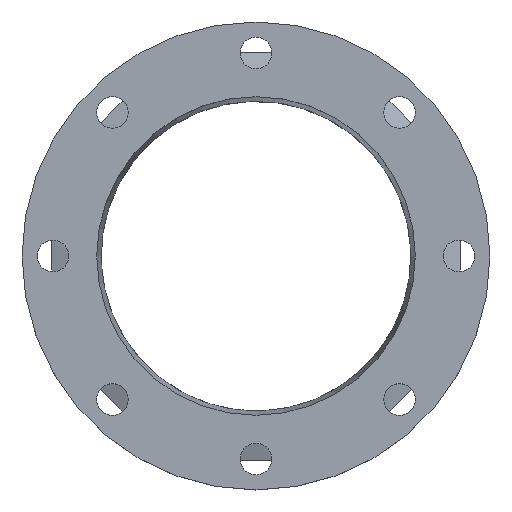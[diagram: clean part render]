
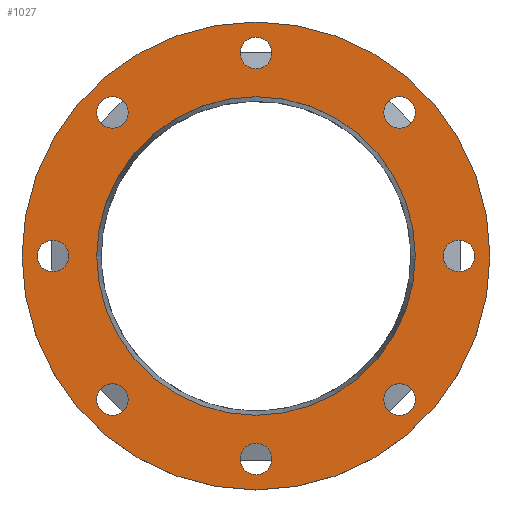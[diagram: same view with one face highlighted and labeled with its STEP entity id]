
A CAD part, top view. The second image highlights one B-rep face of the part: STEP entity #1027.
In plain terms, the highlighted planar face has unit normal (0, 0, 1).
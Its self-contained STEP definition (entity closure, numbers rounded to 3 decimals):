
#7=CARTESIAN_POINT('',(0.,0.,0.));
#8=DIRECTION('',(0.,0.,1.));
#9=DIRECTION('',(0.,1.,0.));
#10=AXIS2_PLACEMENT_3D('',#7,#8,#9);
#29=CARTESIAN_POINT('',(0.,0.,0.));
#30=DIRECTION('',(0.,0.,-1.));
#31=DIRECTION('',(0.,1.,0.));
#32=AXIS2_PLACEMENT_3D('',#29,#30,#31);
#38=CARTESIAN_POINT('',(0.,0.,0.));
#39=DIRECTION('',(0.,0.,1.));
#40=DIRECTION('',(0.,1.,0.));
#41=AXIS2_PLACEMENT_3D('',#38,#39,#40);
#43=CARTESIAN_POINT('',(0.,0.,0.));
#44=DIRECTION('',(0.,0.,-1.));
#45=DIRECTION('',(0.,1.,0.));
#46=AXIS2_PLACEMENT_3D('',#43,#44,#45);
#48=CARTESIAN_POINT('',(0.,147.5,0.));
#49=DIRECTION('',(0.,0.,-1.));
#50=DIRECTION('',(-1.,0.,0.));
#51=AXIS2_PLACEMENT_3D('',#48,#49,#50);
#53=CARTESIAN_POINT('',(0.,147.5,0.));
#54=DIRECTION('',(0.,0.,-1.));
#55=DIRECTION('',(1.,0.,0.));
#56=AXIS2_PLACEMENT_3D('',#53,#54,#55);
#58=CARTESIAN_POINT('',(-104.298,104.298,0.));
#59=DIRECTION('',(0.,0.,-1.));
#60=DIRECTION('',(-0.707,-0.707,0.));
#61=AXIS2_PLACEMENT_3D('',#58,#59,#60);
#63=CARTESIAN_POINT('',(-104.298,104.298,0.));
#64=DIRECTION('',(0.,0.,-1.));
#65=DIRECTION('',(0.707,0.707,0.));
#66=AXIS2_PLACEMENT_3D('',#63,#64,#65);
#68=CARTESIAN_POINT('',(-147.5,0.,0.));
#69=DIRECTION('',(0.,0.,-1.));
#70=DIRECTION('',(0.,-1.,0.));
#71=AXIS2_PLACEMENT_3D('',#68,#69,#70);
#73=CARTESIAN_POINT('',(-147.5,0.,0.));
#74=DIRECTION('',(0.,0.,-1.));
#75=DIRECTION('',(0.,1.,0.));
#76=AXIS2_PLACEMENT_3D('',#73,#74,#75);
#78=CARTESIAN_POINT('',(-104.298,-104.298,0.));
#79=DIRECTION('',(0.,0.,-1.));
#80=DIRECTION('',(0.707,-0.707,0.));
#81=AXIS2_PLACEMENT_3D('',#78,#79,#80);
#83=CARTESIAN_POINT('',(-104.298,-104.298,0.));
#84=DIRECTION('',(0.,0.,-1.));
#85=DIRECTION('',(-0.707,0.707,0.));
#86=AXIS2_PLACEMENT_3D('',#83,#84,#85);
#88=CARTESIAN_POINT('',(0.,-147.5,0.));
#89=DIRECTION('',(0.,0.,-1.));
#90=DIRECTION('',(1.,0.,0.));
#91=AXIS2_PLACEMENT_3D('',#88,#89,#90);
#93=CARTESIAN_POINT('',(0.,-147.5,0.));
#94=DIRECTION('',(0.,0.,-1.));
#95=DIRECTION('',(-1.,0.,0.));
#96=AXIS2_PLACEMENT_3D('',#93,#94,#95);
#98=CARTESIAN_POINT('',(104.298,-104.298,0.));
#99=DIRECTION('',(0.,0.,-1.));
#100=DIRECTION('',(0.707,0.707,0.));
#101=AXIS2_PLACEMENT_3D('',#98,#99,#100);
#103=CARTESIAN_POINT('',(104.298,-104.298,0.));
#104=DIRECTION('',(0.,0.,-1.));
#105=DIRECTION('',(-0.707,-0.707,0.));
#106=AXIS2_PLACEMENT_3D('',#103,#104,#105);
#108=CARTESIAN_POINT('',(147.5,0.,0.));
#109=DIRECTION('',(0.,0.,-1.));
#110=DIRECTION('',(0.,1.,0.));
#111=AXIS2_PLACEMENT_3D('',#108,#109,#110);
#113=CARTESIAN_POINT('',(147.5,0.,0.));
#114=DIRECTION('',(0.,0.,-1.));
#115=DIRECTION('',(0.,-1.,0.));
#116=AXIS2_PLACEMENT_3D('',#113,#114,#115);
#118=CARTESIAN_POINT('',(104.298,104.298,0.));
#119=DIRECTION('',(0.,0.,-1.));
#120=DIRECTION('',(-0.707,0.707,0.));
#121=AXIS2_PLACEMENT_3D('',#118,#119,#120);
#123=CARTESIAN_POINT('',(104.298,104.298,0.));
#124=DIRECTION('',(0.,0.,-1.));
#125=DIRECTION('',(0.707,-0.707,0.));
#126=AXIS2_PLACEMENT_3D('',#123,#124,#125);
#715=CARTESIAN_POINT('',(0.,170.,0.));
#717=VERTEX_POINT('',#715);
#719=CARTESIAN_POINT('',(0.,-170.,0.));
#721=VERTEX_POINT('',#719);
#722=CARTESIAN_POINT('',(0.,115.75,0.));
#723=CARTESIAN_POINT('',(0.,-115.75,0.));
#724=VERTEX_POINT('',#722);
#725=VERTEX_POINT('',#723);
#750=CARTESIAN_POINT('',(-11.5,147.5,0.));
#751=CARTESIAN_POINT('',(11.5,147.5,0.));
#752=VERTEX_POINT('',#750);
#753=VERTEX_POINT('',#751);
#758=CARTESIAN_POINT('',(-112.43,96.167,0.));
#759=CARTESIAN_POINT('',(-96.167,112.43,0.));
#760=VERTEX_POINT('',#758);
#761=VERTEX_POINT('',#759);
#766=CARTESIAN_POINT('',(-147.5,-11.5,0.));
#767=CARTESIAN_POINT('',(-147.5,11.5,0.));
#768=VERTEX_POINT('',#766);
#769=VERTEX_POINT('',#767);
#774=CARTESIAN_POINT('',(-96.167,-112.43,0.));
#775=CARTESIAN_POINT('',(-112.43,-96.167,0.));
#776=VERTEX_POINT('',#774);
#777=VERTEX_POINT('',#775);
#782=CARTESIAN_POINT('',(11.5,-147.5,0.));
#783=CARTESIAN_POINT('',(-11.5,-147.5,0.));
#784=VERTEX_POINT('',#782);
#785=VERTEX_POINT('',#783);
#790=CARTESIAN_POINT('',(112.43,-96.167,0.));
#791=CARTESIAN_POINT('',(96.167,-112.43,0.));
#792=VERTEX_POINT('',#790);
#793=VERTEX_POINT('',#791);
#798=CARTESIAN_POINT('',(147.5,11.5,0.));
#799=CARTESIAN_POINT('',(147.5,-11.5,0.));
#800=VERTEX_POINT('',#798);
#801=VERTEX_POINT('',#799);
#806=CARTESIAN_POINT('',(96.167,112.43,0.));
#807=CARTESIAN_POINT('',(112.43,96.167,0.));
#808=VERTEX_POINT('',#806);
#809=VERTEX_POINT('',#807);
#964=CARTESIAN_POINT('',(0.,0.,0.));
#965=DIRECTION('',(0.,0.,1.));
#966=DIRECTION('',(0.,1.,0.));
#967=AXIS2_PLACEMENT_3D('',#964,#965,#966);
#968=PLANE('',#967);
#970=ORIENTED_EDGE('',*,*,#969,.F.);
#972=ORIENTED_EDGE('',*,*,#971,.T.);
#973=EDGE_LOOP('',(#970,#972));
#974=FACE_OUTER_BOUND('',#973,.F.);
#975=ORIENTED_EDGE('',*,*,#958,.F.);
#976=ORIENTED_EDGE('',*,*,#915,.T.);
#977=EDGE_LOOP('',(#975,#976));
#978=FACE_BOUND('',#977,.F.);
#980=ORIENTED_EDGE('',*,*,#979,.F.);
#982=ORIENTED_EDGE('',*,*,#981,.F.);
#983=EDGE_LOOP('',(#980,#982));
#984=FACE_BOUND('',#983,.F.);
#986=ORIENTED_EDGE('',*,*,#985,.F.);
#988=ORIENTED_EDGE('',*,*,#987,.F.);
#989=EDGE_LOOP('',(#986,#988));
#990=FACE_BOUND('',#989,.F.);
#992=ORIENTED_EDGE('',*,*,#991,.F.);
#994=ORIENTED_EDGE('',*,*,#993,.F.);
#995=EDGE_LOOP('',(#992,#994));
#996=FACE_BOUND('',#995,.F.);
#998=ORIENTED_EDGE('',*,*,#997,.F.);
#1000=ORIENTED_EDGE('',*,*,#999,.F.);
#1001=EDGE_LOOP('',(#998,#1000));
#1002=FACE_BOUND('',#1001,.F.);
#1004=ORIENTED_EDGE('',*,*,#1003,.F.);
#1006=ORIENTED_EDGE('',*,*,#1005,.F.);
#1007=EDGE_LOOP('',(#1004,#1006));
#1008=FACE_BOUND('',#1007,.F.);
#1010=ORIENTED_EDGE('',*,*,#1009,.F.);
#1012=ORIENTED_EDGE('',*,*,#1011,.F.);
#1013=EDGE_LOOP('',(#1010,#1012));
#1014=FACE_BOUND('',#1013,.F.);
#1016=ORIENTED_EDGE('',*,*,#1015,.F.);
#1018=ORIENTED_EDGE('',*,*,#1017,.F.);
#1019=EDGE_LOOP('',(#1016,#1018));
#1020=FACE_BOUND('',#1019,.F.);
#1022=ORIENTED_EDGE('',*,*,#1021,.F.);
#1024=ORIENTED_EDGE('',*,*,#1023,.F.);
#1025=EDGE_LOOP('',(#1022,#1024));
#1026=FACE_BOUND('',#1025,.F.);
#1027=ADVANCED_FACE('',(#974,#978,#984,#990,#996,#1002,#1008,#1014,#1020,#1026),
#968,.T.);
#11=CIRCLE('',#10,115.75);
#33=CIRCLE('',#32,115.75);
#42=CIRCLE('',#41,170.);
#47=CIRCLE('',#46,170.);
#52=CIRCLE('',#51,11.5);
#57=CIRCLE('',#56,11.5);
#62=CIRCLE('',#61,11.5);
#67=CIRCLE('',#66,11.5);
#72=CIRCLE('',#71,11.5);
#77=CIRCLE('',#76,11.5);
#82=CIRCLE('',#81,11.5);
#87=CIRCLE('',#86,11.5);
#92=CIRCLE('',#91,11.5);
#97=CIRCLE('',#96,11.5);
#102=CIRCLE('',#101,11.5);
#107=CIRCLE('',#106,11.5);
#112=CIRCLE('',#111,11.5);
#117=CIRCLE('',#116,11.5);
#122=CIRCLE('',#121,11.5);
#127=CIRCLE('',#126,11.5);
#915=EDGE_CURVE('',#724,#725,#11,.T.);
#958=EDGE_CURVE('',#724,#725,#33,.T.);
#969=EDGE_CURVE('',#717,#721,#42,.T.);
#971=EDGE_CURVE('',#717,#721,#47,.T.);
#979=EDGE_CURVE('',#752,#753,#52,.T.);
#981=EDGE_CURVE('',#753,#752,#57,.T.);
#985=EDGE_CURVE('',#760,#761,#62,.T.);
#987=EDGE_CURVE('',#761,#760,#67,.T.);
#991=EDGE_CURVE('',#768,#769,#72,.T.);
#993=EDGE_CURVE('',#769,#768,#77,.T.);
#997=EDGE_CURVE('',#776,#777,#82,.T.);
#999=EDGE_CURVE('',#777,#776,#87,.T.);
#1003=EDGE_CURVE('',#784,#785,#92,.T.);
#1005=EDGE_CURVE('',#785,#784,#97,.T.);
#1009=EDGE_CURVE('',#792,#793,#102,.T.);
#1011=EDGE_CURVE('',#793,#792,#107,.T.);
#1015=EDGE_CURVE('',#800,#801,#112,.T.);
#1017=EDGE_CURVE('',#801,#800,#117,.T.);
#1021=EDGE_CURVE('',#808,#809,#122,.T.);
#1023=EDGE_CURVE('',#809,#808,#127,.T.);
